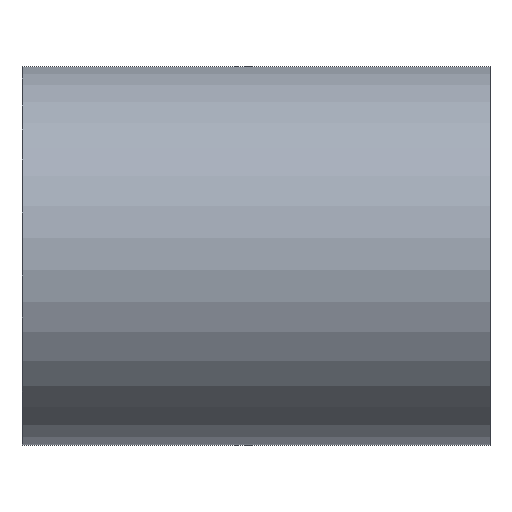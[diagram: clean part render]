
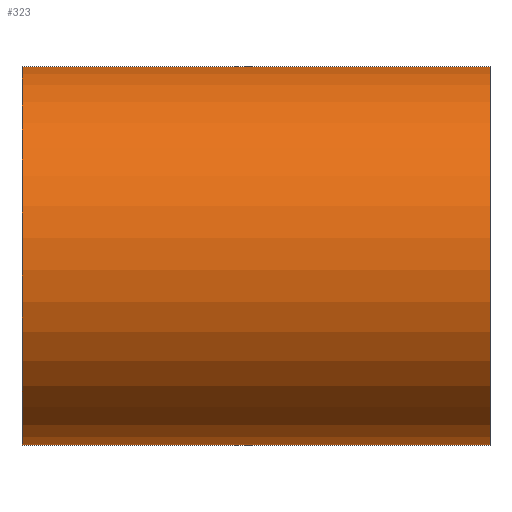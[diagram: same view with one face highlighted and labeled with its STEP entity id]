
A CAD part, front view. The second image highlights one B-rep face of the part: STEP entity #323.
In plain terms, the highlighted cylindrical face has radius 3.2 mm (diameter 6.4 mm), a partial arc.
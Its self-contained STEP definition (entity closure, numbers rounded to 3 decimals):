
#43 = PLANE('',#44);
#44 = AXIS2_PLACEMENT_3D('',#45,#46,#47);
#45 = CARTESIAN_POINT('',(0.,0.,0.));
#46 = DIRECTION('',(1.,0.,0.));
#47 = DIRECTION('',(-0.,1.,0.));
#93 = PLANE('',#94);
#94 = AXIS2_PLACEMENT_3D('',#95,#96,#97);
#95 = CARTESIAN_POINT('',(7.9,0.,0.));
#96 = DIRECTION('',(1.,0.,0.));
#97 = DIRECTION('',(-0.,1.,0.));
#109 = EDGE_CURVE('',#110,#112,#114,.T.);
#110 = VERTEX_POINT('',#111);
#111 = CARTESIAN_POINT('',(0.,3.04,1.));
#112 = VERTEX_POINT('',#113);
#113 = CARTESIAN_POINT('',(0.,3.2,0.));
#114 = SURFACE_CURVE('',#115,(#120,#127),.PCURVE_S1.);
#115 = CIRCLE('',#116,3.2);
#116 = AXIS2_PLACEMENT_3D('',#117,#118,#119);
#117 = CARTESIAN_POINT('',(0.,0.,0.));
#118 = DIRECTION('',(1.,0.,0.));
#119 = DIRECTION('',(-0.,1.,0.));
#120 = PCURVE('',#43,#121);
#121 = DEFINITIONAL_REPRESENTATION('',(#122),#126);
#122 = CIRCLE('',#123,3.2);
#123 = AXIS2_PLACEMENT_2D('',#124,#125);
#124 = CARTESIAN_POINT('',(0.,0.));
#125 = DIRECTION('',(1.,0.));
#126 = ( GEOMETRIC_REPRESENTATION_CONTEXT(2) 
PARAMETRIC_REPRESENTATION_CONTEXT() REPRESENTATION_CONTEXT('2D SPACE',''
  ) );
#127 = PCURVE('',#128,#133);
#128 = CYLINDRICAL_SURFACE('',#129,3.2);
#129 = AXIS2_PLACEMENT_3D('',#130,#131,#132);
#130 = CARTESIAN_POINT('',(7.9,0.,0.));
#131 = DIRECTION('',(-1.,-0.,-0.));
#132 = DIRECTION('',(0.,1.,0.));
#133 = DEFINITIONAL_REPRESENTATION('',(#134),#138);
#134 = LINE('',#135,#136);
#135 = CARTESIAN_POINT('',(-0.,7.9));
#136 = VECTOR('',#137,1.);
#137 = DIRECTION('',(-1.,0.));
#138 = ( GEOMETRIC_REPRESENTATION_CONTEXT(2) 
PARAMETRIC_REPRESENTATION_CONTEXT() REPRESENTATION_CONTEXT('2D SPACE',''
  ) );
#156 = PLANE('',#157);
#157 = AXIS2_PLACEMENT_3D('',#158,#159,#160);
#158 = CARTESIAN_POINT('',(3.95,6.,0.));
#159 = DIRECTION('',(0.,0.,1.));
#160 = DIRECTION('',(1.,0.,-0.));
#210 = PLANE('',#211);
#211 = AXIS2_PLACEMENT_3D('',#212,#213,#214);
#212 = CARTESIAN_POINT('',(3.95,6.,1.));
#213 = DIRECTION('',(0.,0.,1.));
#214 = DIRECTION('',(1.,0.,-0.));
#228 = EDGE_CURVE('',#229,#231,#233,.T.);
#229 = VERTEX_POINT('',#230);
#230 = CARTESIAN_POINT('',(7.9,3.04,1.));
#231 = VERTEX_POINT('',#232);
#232 = CARTESIAN_POINT('',(7.9,3.2,0.));
#233 = SURFACE_CURVE('',#234,(#239,#246),.PCURVE_S1.);
#234 = CIRCLE('',#235,3.2);
#235 = AXIS2_PLACEMENT_3D('',#236,#237,#238);
#236 = CARTESIAN_POINT('',(7.9,0.,0.));
#237 = DIRECTION('',(1.,0.,0.));
#238 = DIRECTION('',(-0.,1.,0.));
#239 = PCURVE('',#93,#240);
#240 = DEFINITIONAL_REPRESENTATION('',(#241),#245);
#241 = CIRCLE('',#242,3.2);
#242 = AXIS2_PLACEMENT_2D('',#243,#244);
#243 = CARTESIAN_POINT('',(0.,0.));
#244 = DIRECTION('',(1.,-0.));
#245 = ( GEOMETRIC_REPRESENTATION_CONTEXT(2) 
PARAMETRIC_REPRESENTATION_CONTEXT() REPRESENTATION_CONTEXT('2D SPACE',''
  ) );
#246 = PCURVE('',#128,#247);
#247 = DEFINITIONAL_REPRESENTATION('',(#248),#252);
#248 = LINE('',#249,#250);
#249 = CARTESIAN_POINT('',(-0.,0.));
#250 = VECTOR('',#251,1.);
#251 = DIRECTION('',(-1.,0.));
#252 = ( GEOMETRIC_REPRESENTATION_CONTEXT(2) 
PARAMETRIC_REPRESENTATION_CONTEXT() REPRESENTATION_CONTEXT('2D SPACE',''
  ) );
#323 = ADVANCED_FACE('',(#324),#128,.T.);
#324 = FACE_BOUND('',#325,.F.);
#325 = EDGE_LOOP('',(#326,#327,#348,#349));
#326 = ORIENTED_EDGE('',*,*,#228,.T.);
#327 = ORIENTED_EDGE('',*,*,#328,.T.);
#328 = EDGE_CURVE('',#231,#112,#329,.T.);
#329 = SURFACE_CURVE('',#330,(#334,#341),.PCURVE_S1.);
#330 = LINE('',#331,#332);
#331 = CARTESIAN_POINT('',(7.9,3.2,0.));
#332 = VECTOR('',#333,1.);
#333 = DIRECTION('',(-1.,0.,0.));
#334 = PCURVE('',#128,#335);
#335 = DEFINITIONAL_REPRESENTATION('',(#336),#340);
#336 = LINE('',#337,#338);
#337 = CARTESIAN_POINT('',(-6.283,0.));
#338 = VECTOR('',#339,1.);
#339 = DIRECTION('',(-0.,1.));
#340 = ( GEOMETRIC_REPRESENTATION_CONTEXT(2) 
PARAMETRIC_REPRESENTATION_CONTEXT() REPRESENTATION_CONTEXT('2D SPACE',''
  ) );
#341 = PCURVE('',#156,#342);
#342 = DEFINITIONAL_REPRESENTATION('',(#343),#347);
#343 = LINE('',#344,#345);
#344 = CARTESIAN_POINT('',(3.95,-2.8));
#345 = VECTOR('',#346,1.);
#346 = DIRECTION('',(-1.,0.));
#347 = ( GEOMETRIC_REPRESENTATION_CONTEXT(2) 
PARAMETRIC_REPRESENTATION_CONTEXT() REPRESENTATION_CONTEXT('2D SPACE',''
  ) );
#348 = ORIENTED_EDGE('',*,*,#109,.F.);
#349 = ORIENTED_EDGE('',*,*,#350,.F.);
#350 = EDGE_CURVE('',#229,#110,#351,.T.);
#351 = SURFACE_CURVE('',#352,(#356,#362),.PCURVE_S1.);
#352 = LINE('',#353,#354);
#353 = CARTESIAN_POINT('',(7.9,3.04,1.));
#354 = VECTOR('',#355,1.);
#355 = DIRECTION('',(-1.,-0.,-0.));
#356 = PCURVE('',#128,#357);
#357 = DEFINITIONAL_REPRESENTATION('',(#358),#361);
#358 = B_SPLINE_CURVE_WITH_KNOTS('',1,(#359,#360),.UNSPECIFIED.,.F.,.F.,
  (2,2),(0.,7.9),.PIECEWISE_BEZIER_KNOTS.);
#359 = CARTESIAN_POINT('',(-0.318,0.));
#360 = CARTESIAN_POINT('',(-0.318,7.9));
#361 = ( GEOMETRIC_REPRESENTATION_CONTEXT(2) 
PARAMETRIC_REPRESENTATION_CONTEXT() REPRESENTATION_CONTEXT('2D SPACE',''
  ) );
#362 = PCURVE('',#210,#363);
#363 = DEFINITIONAL_REPRESENTATION('',(#364),#367);
#364 = B_SPLINE_CURVE_WITH_KNOTS('',1,(#365,#366),.UNSPECIFIED.,.F.,.F.,
  (2,2),(0.,7.9),.PIECEWISE_BEZIER_KNOTS.);
#365 = CARTESIAN_POINT('',(3.95,-2.96));
#366 = CARTESIAN_POINT('',(-3.95,-2.96));
#367 = ( GEOMETRIC_REPRESENTATION_CONTEXT(2) 
PARAMETRIC_REPRESENTATION_CONTEXT() REPRESENTATION_CONTEXT('2D SPACE',''
  ) );
